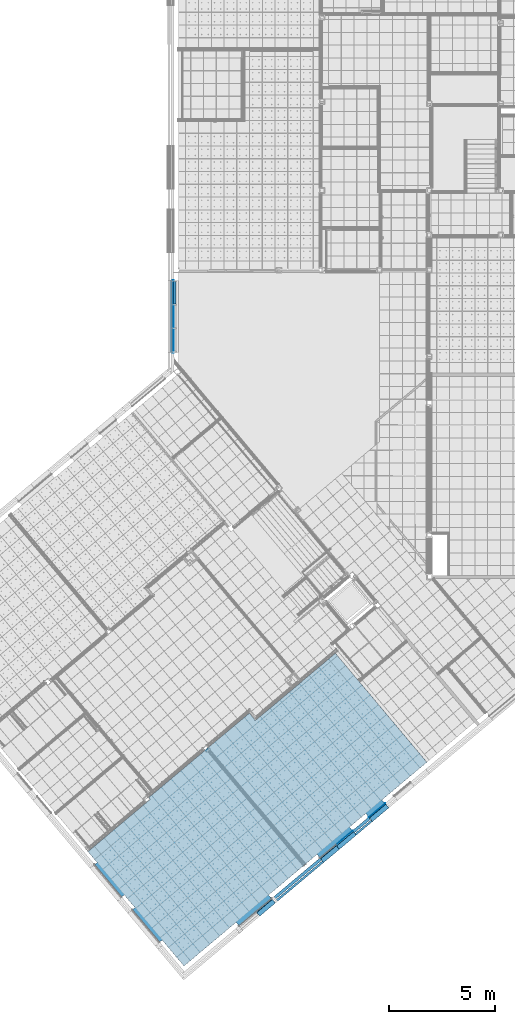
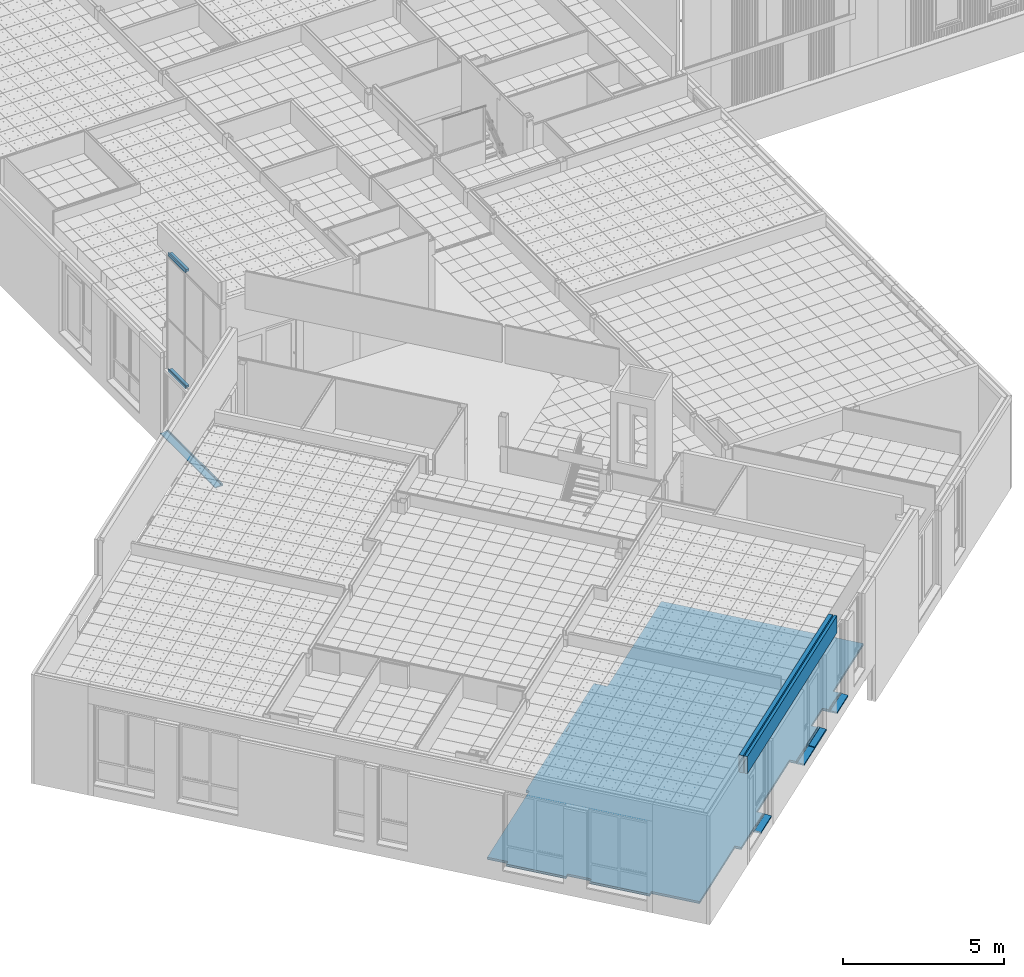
# One storey, part 64 of 338: 20 building element parts, 10 elements without a shape of their own.
"""IFC2X3 building model written with IfcOpenShell, lengths in millimetres."""

from ifc_helpers import new_model, entity, si_unit, converted_unit, derived_unit, money_unit, direction, frame, origin_with_axes, place, context, subcontext, project, spatial, faceted_brep, material, type_object, element, aggregate, save


model = new_model("IFC2X3")

# Units and contexts
model_context = context("Model", 3, precision=0.01, world=origin_with_axes(), true_north=direction((0.0, 1.0)))
plan_context = context("Plan", 3, precision=0.01, world=origin_with_axes(), true_north=direction((0.0, 1.0)))
body_context = subcontext(model_context, "Body", "Model", "MODEL_VIEW")
ifc_project = project(units=[si_unit("LENGTHUNIT", "METRE", prefix="MILLI"), si_unit("AREAUNIT", "SQUARE_METRE"), si_unit("VOLUMEUNIT", "CUBIC_METRE"), converted_unit("PLANEANGLEUNIT", "DEGREE", entity("IfcPlaneAngleMeasure", 0.0174532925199), si_unit("PLANEANGLEUNIT", "RADIAN"), dimensions=[0, 0, 0, 0, 0, 0, 0]), money_unit("EUR"), converted_unit("TIMEUNIT", "Year", entity("IfcTimeMeasure", 31556926.0), si_unit("TIMEUNIT", "SECOND"), dimensions=[0, 0, 1, 0, 0, 0, 0]), si_unit("MASSUNIT", "GRAM", prefix="KILO"), si_unit("THERMODYNAMICTEMPERATUREUNIT", "DEGREE_CELSIUS"), si_unit("LUMINOUSINTENSITYUNIT", "LUMEN"), si_unit("ENERGYUNIT", "JOULE", prefix="MEGA"), derived_unit("THERMALCONDUCTANCEUNIT", [(si_unit("POWERUNIT", "WATT"), 1), (si_unit("LENGTHUNIT", "METRE"), -1), (si_unit("THERMODYNAMICTEMPERATUREUNIT", "KELVIN"), -1)]), derived_unit("SPECIFICHEATCAPACITYUNIT", [(si_unit("ENERGYUNIT", "JOULE"), 1), (si_unit("MASSUNIT", "GRAM", prefix="KILO"), -1), (si_unit("THERMODYNAMICTEMPERATUREUNIT", "KELVIN"), -1)]), derived_unit("MASSDENSITYUNIT", [(si_unit("MASSUNIT", "GRAM", prefix="KILO"), 1), (si_unit("VOLUMEUNIT", "CUBIC_METRE"), -1)])], contexts=[model_context, plan_context])

# Site, building, storey
site_placement = place(None, origin_with_axes())
site = spatial("IfcSite", under=ifc_project, at=site_placement, Name="Fortuinstraat Woensdrecht", CompositionType="ELEMENT")
building_placement = place(site_placement, origin_with_axes())
building = spatial("IfcBuilding", under=site, at=building_placement, Name="IKC Fortuna", CompositionType="ELEMENT")
storey_placement = place(building_placement, origin_with_axes())
storey = spatial("IfcBuildingStorey", under=building, at=storey_placement, Name="00 begane grond", CompositionType="ELEMENT", Elevation=0.0)

# Covering, building element parts
covering_type_1 = type_object("IfcCoveringType", Name="41 dorpel 1450 280 x 88", PredefinedType="NOTDEFINED")
covering_1_placement = place(storey_placement, frame((22845.4119321, -9638.15133467, 1447.5), z_axis=(0.0, 0.0, 1.0), x_axis=(0.76604443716, 0.642787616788, 0.0)))
covering_1 = element("IfcCovering", 1, at=covering_1_placement, inside=storey, type_object=covering_type_1, Name="41_Afwerking_Dorpel", PredefinedType="NOTDEFINED")
ifc_material_1 = material(Name="Isolatie - PUR gespoten")
building_element_part_1_placement = place(covering_1_placement, origin_with_axes())
building_element_part_1 = element("IfcBuildingElementPart", 2, at=building_element_part_1_placement, material=ifc_material_1, Name="Isolatie - PUR gespoten", context=body_context, shape_type="Brep", body=[
    faceted_brep([(1010.00000281, 129.999999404, 2.49999869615), (1010.00000281, 140.000000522, 2.5), (0.0, 140.000000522, 2.5), (0.0, 129.999999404, 2.49999869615), (1010.00000281, 129.999999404, -85.0), (1010.00000281, 140.000000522, -85.0), (0.0, 140.000000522, -85.0), (0.0, 129.999999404, -85.0)], [[[0, 1, 2, 3]], [[0, 4, 5, 1]], [[1, 5, 6, 2]], [[3, 2, 6, 7]], [[4, 0, 3, 7]], [[5, 4, 7, 6]]]),
])
ifc_material_2 = material(Name="Hout AFW")
building_element_part_2_placement = place(covering_1_placement, origin_with_axes())
building_element_part_2 = element("IfcBuildingElementPart", 3, at=building_element_part_2_placement, material=ifc_material_2, Name="Hout AFW", context=body_context, shape_type="Brep", body=[
    faceted_brep([(1010.00000281, 130.0, 2.49999910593), (1010.00000281, 130.0, -85.0), (0.0, 130.0, -85.0), (0.0, 130.0, 2.49999910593), (1010.00000281, 92.0000008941, 2.49999910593), (1010.00000281, 92.0000008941, -85.0), (0.0, 92.0000008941, -85.0), (0.0, 92.0000008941, 2.49999910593)], [[[0, 1, 2, 3]], [[0, 4, 5, 1]], [[1, 5, 6, 2]], [[3, 2, 6, 7]], [[4, 0, 3, 7]], [[5, 4, 7, 6]]]),
])
ifc_material_3 = material(Name="Steen - Kunststeen")
building_element_part_3_placement = place(covering_1_placement, origin_with_axes())
building_element_part_3 = element("IfcBuildingElementPart", 4, at=building_element_part_3_placement, material=ifc_material_3, Name="Steen - Kunststeen", context=body_context, shape_type="Brep", body=[
    faceted_brep([(1010.00000281, 82.0, -19.5865456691), (1010.00000281, 82.0, 2.5), (0.0, 82.0, 2.5), (0.0, 82.0, -19.5865456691), (1010.00000281, -140.0, -39.7722078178), (1010.00000281, -140.0, -85.0), (1010.00000281, 92.0, -85.0), (1010.00000281, 92.0, 2.5), (0.0, 92.0, 2.5), (0.0, 92.0, -85.0), (0.0, -140.0, -85.0), (0.0, -140.0, -39.7722078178)], [[[0, 1, 2, 3]], [[0, 4, 5, 6, 7, 1]], [[1, 7, 8, 2]], [[3, 2, 8, 9, 10, 11]], [[4, 0, 3, 11]], [[5, 4, 11, 10]], [[6, 5, 10, 9]], [[7, 6, 9, 8]]]),
])
aggregate(covering_1, [building_element_part_1, building_element_part_2, building_element_part_3])

# Curtain wall, plates, building element parts
curtain_wall_type = type_object("IfcCurtainWallType", Name="Curtain Wall Type", PredefinedType="NOTDEFINED")
curtain_wall_placement = place(storey_placement, frame((13569.9121752, 15129.2768159, -0.000250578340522), z_axis=(0.0, 0.0, 1.0), x_axis=(1.0, 0.0, 0.0)))
curtain_wall = element("IfcCurtainWall", 5, at=curtain_wall_placement, inside=storey, type_object=curtain_wall_type, Name="21_Vliesgevel_Vliesgevel")
plate_type_1 = type_object("IfcPlateType", Name="Distinct Panel 1095 x 130 x 33", PredefinedType="CURTAIN_PANEL")
plate_1_placement = place(curtain_wall_placement, frame((0.0, 0.0, 6717.50001103), z_axis=(0.0, 0.0, 1.0), x_axis=(0.0, 1.0, 0.0)))
plate_1 = element("IfcPlate", 6, at=plate_1_placement, type_object=plate_type_1, Name="_Vliesgevel - paneel_Paneel-x", ObjectType="CURTAIN_PANEL")
ifc_material_4 = material(Name="Metaal - Staal AFW")
building_element_part_4_placement = place(plate_1_placement, origin_with_axes())
building_element_part_4 = element("IfcBuildingElementPart", 7, at=building_element_part_4_placement, material=ifc_material_4, Name="Metaal - Staal AFW", context=body_context, shape_type="Brep", body=[
    faceted_brep([(-557.999993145, -14.5, -75.5000041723), (-557.999993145, -14.5, 50.5000056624), (532.999992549, -14.5, 50.5000056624), (532.999992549, -14.5, -75.5000041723), (512.999998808, -14.5, -55.5000104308), (512.999998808, -14.5, 30.5000119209), (-537.999999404, -14.5, 30.5000119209), (-537.999999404, -14.5, -55.5000104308), (-557.999993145, 14.5, -75.5000041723), (-557.999993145, 14.5, 50.5000056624), (532.999992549, 14.5, 50.5000056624), (532.999992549, 14.5, -75.5000041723), (512.999998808, -131.5, 30.5000119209), (512.999998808, -131.5, -55.5000104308), (-537.999999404, -131.5, 30.5000119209), (-537.999999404, -131.5, -55.5000104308), (534.999992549, 14.5, 52.5000056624), (534.999992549, 14.5, -77.5000041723), (-559.999993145, 14.5, -77.5000041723), (-559.999993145, 14.5, 52.5000056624), (534.999992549, -16.5, -77.5000041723), (534.999992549, -16.5, 52.5000056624), (-559.999993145, -16.5, -77.5000041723), (-559.999993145, -16.5, 52.5000056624), (-539.999999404, -16.5, -57.5000104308), (-539.999999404, -16.5, 32.5000119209), (514.999998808, -16.5, 32.5000119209), (514.999998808, -16.5, -57.5000104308), (-539.999999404, -133.5, -57.5000104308), (-539.999999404, -133.5, 32.5000119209), (514.999998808, -133.5, 32.5000119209), (514.999998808, -133.5, -57.5000104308)], [[[0, 1, 2, 3], [4, 5, 6, 7]], [[0, 8, 9, 1]], [[1, 9, 10, 2]], [[2, 10, 11, 3]], [[3, 11, 8, 0]], [[12, 5, 4, 13]], [[6, 5, 12, 14]], [[7, 6, 14, 15]], [[13, 4, 7, 15]], [[16, 17, 18, 19], [8, 11, 10, 9]], [[15, 14, 12, 13]], [[20, 17, 16, 21]], [[22, 18, 17, 20]], [[23, 19, 18, 22]], [[21, 16, 19, 23]], [[22, 20, 21, 23], [24, 25, 26, 27]], [[25, 24, 28, 29]], [[26, 25, 29, 30]], [[27, 26, 30, 31]], [[24, 27, 31, 28]], [[31, 30, 29, 28]]]),
    faceted_brep([(-559.999993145, 16.5, 52.5000056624), (-559.999993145, 14.5, 52.5000056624), (534.999992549, 14.5, 52.5000056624), (534.999992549, 16.5, 52.5000056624), (-559.999993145, 16.5, -77.5000041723), (-559.999993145, 14.5, -77.5000041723), (534.999992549, 14.5, -77.5000041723), (534.999992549, 16.5, -77.5000041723)], [[[0, 1, 2, 3]], [[4, 5, 1, 0]], [[2, 1, 5, 6]], [[3, 2, 6, 7]], [[4, 0, 3, 7]], [[7, 6, 5, 4]]]),
])
ifc_material_5 = material(Name="ALG - ISOLATIE")
building_element_part_5_placement = place(plate_1_placement, origin_with_axes())
building_element_part_5 = element("IfcBuildingElementPart", 8, at=building_element_part_5_placement, material=ifc_material_5, Name="ALG - ISOLATIE", context=body_context, shape_type="Brep", body=[
    faceted_brep([(512.999998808, -14.5, 30.5000119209), (-537.999999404, -14.5, 30.5000119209), (-537.999999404, -131.5, 30.5000119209), (512.999998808, -131.5, 30.5000119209), (532.999992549, -14.5, 50.5000056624), (-557.999993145, -14.5, 50.5000056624), (-557.999993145, -14.5, -75.5000041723), (532.999992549, -14.5, -75.5000041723), (-537.999999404, -14.5, -55.5000104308), (512.999998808, -14.5, -55.5000104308), (-537.999999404, -131.5, -55.5000104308), (512.999998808, -131.5, -55.5000104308), (-557.999993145, 14.5, 50.5000056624), (532.999992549, 14.5, 50.5000056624), (-557.999993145, 14.5, -75.5000041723), (532.999992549, 14.5, -75.5000041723)], [[[0, 1, 2, 3]], [[4, 5, 6, 7], [8, 1, 0, 9]], [[1, 8, 10, 2]], [[3, 2, 10, 11]], [[9, 0, 3, 11]], [[12, 5, 4, 13]], [[14, 6, 5, 12]], [[15, 7, 6, 14]], [[13, 4, 7, 15]], [[8, 9, 11, 10]], [[14, 12, 13, 15]]]),
])
aggregate(plate_1, [building_element_part_4, building_element_part_5])
plate_type_2 = type_object("IfcPlateType", Name="Distinct Panel 1095 x 114 x 33", PredefinedType="CURTAIN_PANEL")
plate_2_placement = place(curtain_wall_placement, frame((0.0, 0.0, 2298.5), z_axis=(0.0, 0.0, 1.0), x_axis=(0.0, 1.0, 0.0)))
plate_2 = element("IfcPlate", 9, at=plate_2_placement, type_object=plate_type_2, Name="_Vliesgevel - paneel_Paneel-x", ObjectType="CURTAIN_PANEL")
aggregate(curtain_wall, [plate_1, plate_2])
building_element_part_6_placement = place(plate_2_placement, origin_with_axes())
building_element_part_6 = element("IfcBuildingElementPart", 10, at=building_element_part_6_placement, material=ifc_material_4, Name="Metaal - Staal AFW", context=body_context, shape_type="Brep", body=[
    faceted_brep([(-557.999993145, -14.5, -54.9999931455), (-557.999993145, -14.5, 55.0000014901), (532.999992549, -14.5, 55.0000014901), (532.999992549, -14.5, -54.9999931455), (512.999998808, -14.5, -34.999999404), (512.999998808, -14.5, 35.0000077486), (-537.999999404, -14.5, 35.0000077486), (-537.999999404, -14.5, -34.999999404), (-557.999993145, 14.5, -54.9999931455), (-557.999993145, 14.5, 55.0000014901), (532.999992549, 14.5, 55.0000014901), (532.999992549, 14.5, -54.9999931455), (512.999998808, -131.5, 35.0000077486), (512.999998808, -131.5, -34.999999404), (-537.999999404, -131.5, 35.0000077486), (-537.999999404, -131.5, -34.999999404), (534.999992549, 14.5, 57.0000014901), (534.999992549, 14.5, -56.9999931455), (-559.999993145, 14.5, -56.9999931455), (-559.999993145, 14.5, 57.0000014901), (534.999992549, -16.5, -56.9999931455), (534.999992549, -16.5, 57.0000014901), (-559.999993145, -16.5, -56.9999931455), (-559.999993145, -16.5, 57.0000014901), (-539.999999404, -16.5, -36.999999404), (-539.999999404, -16.5, 37.0000077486), (514.999998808, -16.5, 37.0000077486), (514.999998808, -16.5, -36.999999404), (-539.999999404, -133.5, -36.999999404), (-539.999999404, -133.5, 37.0000077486), (514.999998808, -133.5, 37.0000077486), (514.999998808, -133.5, -36.999999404)], [[[0, 1, 2, 3], [4, 5, 6, 7]], [[0, 8, 9, 1]], [[1, 9, 10, 2]], [[2, 10, 11, 3]], [[3, 11, 8, 0]], [[12, 5, 4, 13]], [[6, 5, 12, 14]], [[7, 6, 14, 15]], [[13, 4, 7, 15]], [[16, 17, 18, 19], [8, 11, 10, 9]], [[15, 14, 12, 13]], [[20, 17, 16, 21]], [[22, 18, 17, 20]], [[23, 19, 18, 22]], [[21, 16, 19, 23]], [[22, 20, 21, 23], [24, 25, 26, 27]], [[25, 24, 28, 29]], [[26, 25, 29, 30]], [[27, 26, 30, 31]], [[24, 27, 31, 28]], [[31, 30, 29, 28]]]),
    faceted_brep([(-559.999993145, 16.5, 57.0000014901), (-559.999993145, 14.5, 57.0000014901), (534.999992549, 14.5, 57.0000014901), (534.999992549, 16.5, 57.0000014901), (-559.999993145, 16.5, -56.9999931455), (-559.999993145, 14.5, -56.9999931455), (534.999992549, 14.5, -56.9999931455), (534.999992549, 16.5, -56.9999931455)], [[[0, 1, 2, 3]], [[4, 5, 1, 0]], [[2, 1, 5, 6]], [[3, 2, 6, 7]], [[4, 0, 3, 7]], [[7, 6, 5, 4]]]),
])
building_element_part_7_placement = place(plate_2_placement, origin_with_axes())
building_element_part_7 = element("IfcBuildingElementPart", 11, at=building_element_part_7_placement, material=ifc_material_5, Name="ALG - ISOLATIE", context=body_context, shape_type="Brep", body=[
    faceted_brep([(512.999998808, -14.5, 35.0000077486), (-537.999999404, -14.5, 35.0000077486), (-537.999999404, -131.5, 35.0000077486), (512.999998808, -131.5, 35.0000077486), (532.999992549, -14.5, 55.0000014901), (-557.999993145, -14.5, 55.0000014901), (-557.999993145, -14.5, -54.9999931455), (532.999992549, -14.5, -54.9999931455), (-537.999999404, -14.5, -34.999999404), (512.999998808, -14.5, -34.999999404), (-537.999999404, -131.5, -34.999999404), (512.999998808, -131.5, -34.999999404), (-557.999993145, 14.5, 55.0000014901), (532.999992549, 14.5, 55.0000014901), (-557.999993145, 14.5, -54.9999931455), (532.999992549, 14.5, -54.9999931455)], [[[0, 1, 2, 3]], [[4, 5, 6, 7], [8, 1, 0, 9]], [[1, 8, 10, 2]], [[3, 2, 10, 11]], [[9, 0, 3, 11]], [[12, 5, 4, 13]], [[14, 6, 5, 12]], [[15, 7, 6, 14]], [[13, 4, 7, 15]], [[8, 9, 11, 10]], [[14, 12, 13, 15]]]),
])
aggregate(plate_2, [building_element_part_6, building_element_part_7])

# Covering, building element parts
covering_type_2 = type_object("IfcCoveringType", Name="43 Vloerafwerking 90", PredefinedType="FLOORING")
covering_2_placement = place(storey_placement, frame((14072.3968232, -16537.4708964, 1450.0), z_axis=(0.0, 0.0, 1.0), x_axis=(1.0, 0.0, 0.0)))
covering_2 = element("IfcCovering", 12, at=covering_2_placement, inside=storey, type_object=covering_type_2, Name="43_Vloerafwerking_Vloerafwerking", PredefinedType="FLOORING")
ifc_material_6 = material(Name="Cement")
building_element_part_8_placement = place(covering_2_placement, origin_with_axes())
building_element_part_8 = element("IfcBuildingElementPart", 13, at=building_element_part_8_placement, material=ifc_material_6, Name="Cement", context=body_context, shape_type="Brep", body=[
    faceted_brep([(1131.73034042, 10160.1955619, 0.0), (1199.52527364, 10217.0822653, 0.0), (1206.59593735, 10208.6557765, 0.0), (1038.06615986, 10067.2425023, 0.0), (1030.99549615, 10075.6689912, 0.0), (1098.79042937, 10132.5556947, 0.0), (1104.13471957, 10140.1881321, 0.0), (1104.94679195, 10149.4701618, 0.0), (1101.00905237, 10157.9146716, 0.0), (1056.78469329, 10210.6192104, 0.0), (-1662.90561836, 7928.528073, 0.0), (-1592.1989813, 7844.26318426, 0.0), (-4520.40386512, 5387.20754623, 0.0), (-4084.27249846, 4867.44642317, 0.0), (-4199.17916493, 4771.02828172, 0.0), (-2922.60297209, 3249.66401768, 0.0), (-2807.69630562, 3346.08215914, 0.0), (-2303.75080637, 2745.50329994, 0.0), (-2418.65747284, 2649.08515848, 0.0), (-1142.08128, 1127.72089445, 0.0), (-1027.17461354, 1224.1390359, 0.0), (0.0, 0.0, 0.0), (2453.09044164, 2058.38728483, 0.0), (2590.64699011, 1894.453774, 0.0), (4111.79511935, 3170.84860825, 0.0), (3974.23857088, 3334.78211908, 0.0), (3974.45470565, 3334.96347769, 0.0), (6260.35770168, 5253.06383852, 0.0), (6397.91425016, 5089.13032769, 0.0), (7919.03600166, 6365.50302839, 0.0), (7781.47945318, 6529.43653922, 0.0), (7781.7219657, 6529.64003138, 0.0), (8550.83058661, 7174.99879148, 0.0), (8688.38713508, 7011.06528066, 0.0), (9443.31137424, 7644.52193134, 0.0), (9305.75482576, 7808.45544217, 0.0), (9306.15040751, 7808.78737466, 0.0), (11421.7227361, 9583.96333528, 0.0), (7119.86665828, 14710.7157708, 0.0), (3361.65289299, 11557.1999865, 0.0), (3072.39846863, 11901.9199859, 0.0), (1062.14700439, 10215.1187237, 0.0), (1106.37136347, 10162.4141849, 0.0), (1114.00380087, 10157.0698947, 0.0), (1123.28583065, 10156.2578223, 0.0), (1131.73034042, 10160.1955619, -50.0), (1199.52527364, 10217.0822653, -50.0), (1206.59593735, 10208.6557765, -50.0), (1038.06615986, 10067.2425023, -50.0), (1030.99549615, 10075.6689912, -50.0), (1098.79042937, 10132.5556947, -50.0), (1104.13471957, 10140.1881321, -50.0), (1104.94679195, 10149.4701618, -50.0), (1101.00905237, 10157.9146716, -50.0), (1056.78469329, 10210.6192104, -50.0), (1062.14700439, 10215.1187237, -50.0), (3072.39846863, 11901.9199859, -70.0), (-1662.90561836, 7928.528073, -70.0), (-1592.1989813, 7844.26318426, -70.0), (-4520.40386512, 5387.20754623, -70.0), (-4084.27249846, 4867.44642317, -70.0), (-4199.17916493, 4771.02828172, -70.0), (-2922.60297209, 3249.66401768, -70.0), (-2807.69630562, 3346.08215914, -70.0), (-2303.75080637, 2745.50329994, -70.0), (-2418.65747284, 2649.08515848, -70.0), (-1142.08128, 1127.72089445, -70.0), (-1027.17461354, 1224.1390359, -70.0), (0.0, 0.0, -70.0), (2453.09044164, 2058.38728483, -70.0), (2590.64699011, 1894.453774, -70.0), (4111.79511935, 3170.84860825, -70.0), (3974.23857088, 3334.78211908, -70.0), (3974.45470565, 3334.96347769, -70.0), (6260.35770168, 5253.06383852, -70.0), (6397.91425016, 5089.13032769, -70.0), (7919.03600166, 6365.50302839, -70.0), (7781.47945318, 6529.43653922, -70.0), (7781.7219657, 6529.64003138, -70.0), (8550.83058661, 7174.99879148, -70.0), (8688.38713508, 7011.06528066, -70.0), (9443.31137424, 7644.52193134, -70.0), (9305.75482576, 7808.45544217, -70.0), (9306.15040751, 7808.78737466, -70.0), (11421.7227361, 9583.96333528, -70.0), (7119.86665828, 14710.7157708, -70.0), (3361.65289299, 11557.1999865, -70.0), (1106.37136347, 10162.4141849, -50.0), (1114.00380087, 10157.0698947, -50.0), (1123.28583065, 10156.2578223, -50.0)], [[[0, 1, 2, 3, 4, 5, 6, 7, 8, 9, 10, 11, 12, 13, 14, 15, 16, 17, 18, 19, 20, 21, 22, 23, 24, 25, 26, 27, 28, 29, 30, 31, 32, 33, 34, 35, 36, 37, 38, 39, 40, 41, 42, 43, 44]], [[1, 0, 45, 46]], [[2, 1, 46, 47]], [[3, 2, 47, 48]], [[4, 3, 48, 49]], [[5, 4, 49, 50]], [[6, 5, 50, 51]], [[7, 6, 51, 52]], [[8, 7, 52, 53]], [[9, 8, 53, 54]], [[55, 41, 40, 56, 57, 10, 9, 54]], [[10, 57, 58, 11]], [[11, 58, 59, 12]], [[12, 59, 60, 13]], [[13, 60, 61, 14]], [[14, 61, 62, 15]], [[15, 62, 63, 16]], [[16, 63, 64, 17]], [[17, 64, 65, 18]], [[18, 65, 66, 19]], [[19, 66, 67, 20]], [[20, 67, 68, 21]], [[21, 68, 69, 22]], [[22, 69, 70, 23]], [[70, 71, 24, 23]], [[72, 25, 24, 71]], [[72, 73, 26, 25]], [[27, 26, 73, 74]], [[27, 74, 75, 28]], [[75, 76, 29, 28]], [[77, 30, 29, 76]], [[77, 78, 31, 30]], [[32, 31, 78, 79]], [[32, 79, 80, 33]], [[80, 81, 34, 33]], [[82, 35, 34, 81]], [[82, 83, 36, 35]], [[37, 36, 83, 84]], [[37, 84, 85, 38]], [[38, 85, 86, 39]], [[39, 86, 56, 40]], [[42, 41, 55, 87]], [[43, 42, 87, 88]], [[44, 43, 88, 89]], [[0, 44, 89, 45]], [[55, 54, 53, 52, 51, 50, 49, 48, 47, 46, 45, 89, 88, 87]], [[83, 82, 81, 80, 79, 78, 77, 76, 75, 74, 73, 72, 71, 70, 69, 68, 67, 66, 65, 64, 63, 62, 61, 60, 59, 58, 57, 56, 86, 85, 84]]]),
])
ifc_material_7 = material(Name="Isolatie - XPS zwevende dekvloer")
building_element_part_9_placement = place(covering_2_placement, origin_with_axes())
building_element_part_9 = element("IfcBuildingElementPart", 14, at=building_element_part_9_placement, material=ifc_material_7, Name="Isolatie - XPS zwevende dekvloer", context=body_context, shape_type="Brep", body=[
    faceted_brep([(8688.38713508, 7011.06528066, -70.0), (8688.38713508, 7011.06528066, -90.0), (9443.31137424, 7644.52193134, -90.0), (9443.31137424, 7644.52193134, -70.0), (8550.83058661, 7174.99879148, -70.0), (8550.83058661, 7174.99879148, -90.0), (11421.7227361, 9583.96333528, -90.0), (9306.15040751, 7808.78737466, -90.0), (9305.75482576, 7808.45544217, -90.0), (7781.7219657, 6529.64003138, -90.0), (7781.47945318, 6529.43653922, -90.0), (7919.03600166, 6365.50302839, -90.0), (6397.91425016, 5089.13032769, -90.0), (6260.35770168, 5253.06383852, -90.0), (3974.45470565, 3334.96347769, -90.0), (3974.23857088, 3334.78211908, -90.0), (4111.79511935, 3170.84860825, -90.0), (2590.64699011, 1894.453774, -90.0), (2453.09044164, 2058.38728483, -90.0), (0.0, 0.0, -90.0), (-1027.17461354, 1224.1390359, -90.0), (-1142.08128, 1127.72089445, -90.0), (-2418.65747284, 2649.08515848, -90.0), (-2303.75080637, 2745.50329994, -90.0), (-2807.69630562, 3346.08215914, -90.0), (-2922.60297209, 3249.66401768, -90.0), (-4199.17916493, 4771.02828172, -90.0), (-4084.27249846, 4867.44642317, -90.0), (-4520.40386512, 5387.20754623, -90.0), (-1592.1989813, 7844.26318426, -90.0), (-1662.90561836, 7928.528073, -90.0), (3072.39846863, 11901.9199859, -90.0), (3361.65289299, 11557.1999865, -90.0), (7119.86665828, 14710.7157708, -90.0), (9305.75482576, 7808.45544217, -70.0), (9306.15040751, 7808.78737466, -70.0), (11421.7227361, 9583.96333528, -70.0), (7119.86665828, 14710.7157708, -70.0), (3361.65289299, 11557.1999865, -70.0), (3072.39846863, 11901.9199859, -70.0), (-1662.90561836, 7928.528073, -70.0), (-1592.1989813, 7844.26318426, -70.0), (-4520.40386512, 5387.20754623, -70.0), (-4084.27249846, 4867.44642317, -70.0), (-4199.17916493, 4771.02828172, -70.0), (-2922.60297209, 3249.66401768, -70.0), (-2807.69630562, 3346.08215914, -70.0), (-2303.75080637, 2745.50329994, -70.0), (-2418.65747284, 2649.08515848, -70.0), (-1142.08128, 1127.72089445, -70.0), (-1027.17461354, 1224.1390359, -70.0), (0.0, 0.0, -70.0), (2453.09044164, 2058.38728483, -70.0), (2590.64699011, 1894.453774, -70.0), (4111.79511935, 3170.84860825, -70.0), (3974.23857088, 3334.78211908, -70.0), (3974.45470565, 3334.96347769, -70.0), (6260.35770168, 5253.06383852, -70.0), (6397.91425016, 5089.13032769, -70.0), (7919.03600166, 6365.50302839, -70.0), (7781.47945318, 6529.43653922, -70.0), (7781.7219657, 6529.64003138, -70.0)], [[[0, 1, 2, 3]], [[1, 0, 4, 5]], [[6, 7, 8, 2, 1, 5, 9, 10, 11, 12, 13, 14, 15, 16, 17, 18, 19, 20, 21, 22, 23, 24, 25, 26, 27, 28, 29, 30, 31, 32, 33]], [[2, 8, 34, 3]], [[0, 3, 34, 35, 36, 37, 38, 39, 40, 41, 42, 43, 44, 45, 46, 47, 48, 49, 50, 51, 52, 53, 54, 55, 56, 57, 58, 59, 60, 61, 4]], [[5, 4, 61, 9]], [[6, 36, 35, 7]], [[34, 8, 7, 35]], [[60, 10, 9, 61]], [[11, 10, 60, 59]], [[58, 12, 11, 59]], [[12, 58, 57, 13]], [[13, 57, 56, 14]], [[55, 15, 14, 56]], [[16, 15, 55, 54]], [[53, 17, 16, 54]], [[17, 53, 52, 18]], [[18, 52, 51, 19]], [[19, 51, 50, 20]], [[20, 50, 49, 21]], [[21, 49, 48, 22]], [[22, 48, 47, 23]], [[23, 47, 46, 24]], [[24, 46, 45, 25]], [[25, 45, 44, 26]], [[26, 44, 43, 27]], [[27, 43, 42, 28]], [[28, 42, 41, 29]], [[29, 41, 40, 30]], [[30, 40, 39, 31]], [[31, 39, 38, 32]], [[32, 38, 37, 33]], [[33, 37, 36, 6]]]),
])
aggregate(covering_2, [building_element_part_8, building_element_part_9])

covering_type_3 = type_object("IfcCoveringType", Name="41 dorpel d bi 1450 280 x 108", PredefinedType="NOTDEFINED")
covering_3_placement = place(storey_placement, frame((21291.8737738, -10941.7246163, 1447.5), z_axis=(0.0, 0.0, 1.0), x_axis=(0.76604443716, 0.642787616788, 0.0)))
covering_3 = element("IfcCovering", 15, at=covering_3_placement, inside=storey, type_object=covering_type_3, Name="41_Afwerking_Dorpel", PredefinedType="NOTDEFINED")
building_element_part_10_placement = place(covering_3_placement, origin_with_axes())
building_element_part_10 = element("IfcBuildingElementPart", 16, at=building_element_part_10_placement, material=ifc_material_1, Name="Isolatie - PUR gespoten", context=body_context, shape_type="Brep", body=[
    faceted_brep([(1043.00000001, 140.0, -85.0), (1043.00000001, 129.999999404, -85.0), (0.0, 129.999999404, -85.0), (0.0, 140.0, -85.0), (1043.00000001, 140.0, 2.5), (1043.00000001, 129.999999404, 2.5), (0.0, 129.999999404, 2.5), (0.0, 140.0, 2.5)], [[[0, 1, 2, 3]], [[0, 4, 5, 1]], [[1, 5, 6, 2]], [[3, 2, 6, 7]], [[4, 0, 3, 7]], [[5, 4, 7, 6]]]),
])
building_element_part_11_placement = place(covering_3_placement, origin_with_axes())
building_element_part_11 = element("IfcBuildingElementPart", 17, at=building_element_part_11_placement, material=ifc_material_3, Name="Steen - Kunststeen", context=body_context, shape_type="Brep", body=[
    faceted_brep([(1043.00000001, 68.0, 2.5), (1043.00000001, 68.0, 22.5), (0.0, 68.0, 22.5), (0.0, 68.0, 2.5), (1043.00000001, -140.0, -16.4126924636), (1043.00000001, -140.0, -85.0), (1043.00000001, 130.0, -85.0), (1043.00000001, 129.999999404, 2.5), (1043.00000001, 130.0, 22.5), (0.0, 130.0, 22.5), (0.0, 129.999999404, 2.5), (0.0, 130.0, -85.0), (0.0, -140.0, -85.0), (0.0, -140.0, -16.4126924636)], [[[0, 1, 2, 3]], [[0, 4, 5, 6, 7, 8, 1]], [[1, 8, 9, 2]], [[3, 2, 9, 10, 11, 12, 13]], [[4, 0, 3, 13]], [[5, 4, 13, 12]], [[6, 5, 12, 11]], [[7, 6, 11, 10]], [[8, 7, 10, 9]]]),
])
aggregate(covering_3, [building_element_part_10, building_element_part_11])

covering_4_placement = place(storey_placement, frame((17542.8258912, -14087.5493114, 1447.5), z_axis=(0.0, 0.0, 1.0), x_axis=(0.76604443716, 0.642787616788, 0.0)))
covering_4 = element("IfcCovering", 18, at=covering_4_placement, inside=storey, type_object=covering_type_1, Name="41_Afwerking_Dorpel", PredefinedType="NOTDEFINED")
building_element_part_12_placement = place(covering_4_placement, origin_with_axes())
building_element_part_12 = element("IfcBuildingElementPart", 19, at=building_element_part_12_placement, material=ifc_material_2, Name="Hout AFW", context=body_context, shape_type="Brep", body=[
    faceted_brep([(967.000000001, 130.0, 2.49999910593), (967.000000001, 130.0, -85.0), (0.0, 130.0, -85.0), (0.0, 130.0, 2.49999910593), (967.000000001, 92.0000008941, 2.49999910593), (967.000000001, 92.0000008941, -85.0), (0.0, 92.0000008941, -85.0), (0.0, 92.0000008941, 2.49999910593)], [[[0, 1, 2, 3]], [[0, 4, 5, 1]], [[1, 5, 6, 2]], [[3, 2, 6, 7]], [[4, 0, 3, 7]], [[5, 4, 7, 6]]]),
])
building_element_part_13_placement = place(covering_4_placement, origin_with_axes())
building_element_part_13 = element("IfcBuildingElementPart", 20, at=building_element_part_13_placement, material=ifc_material_3, Name="Steen - Kunststeen", context=body_context, shape_type="Brep", body=[
    faceted_brep([(967.000000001, 82.0, -19.5865456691), (967.000000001, 82.0, 2.5), (0.0, 82.0, 2.5), (0.0, 82.0, -19.5865456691), (967.000000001, -140.0, -39.7722078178), (967.000000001, -140.0, -85.0), (967.000000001, 92.0, -85.0), (967.000000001, 92.0, 2.5), (0.0, 92.0, 2.5), (0.0, 92.0, -85.0), (0.0, -140.0, -85.0), (0.0, -140.0, -39.7722078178)], [[[0, 1, 2, 3]], [[0, 4, 5, 6, 7, 1]], [[1, 7, 8, 2]], [[3, 2, 8, 9, 10, 11]], [[4, 0, 3, 11]], [[5, 4, 11, 10]], [[6, 5, 10, 9]], [[7, 6, 9, 8]]]),
])
aggregate(covering_4, [building_element_part_12, building_element_part_13])

# Wall, building element parts
wall_type = type_object("IfcWallType", Name="21 MW hoofd 280", PredefinedType="NOTDEFINED")
wall_placement = place(storey_placement, frame((16510.2179469, -14771.2532506, 4447.5), z_axis=(0.0, 0.0, 1.0), x_axis=(0.76604444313, 0.642787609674, 0.0)))
wall = element("IfcWall", 21, at=wall_placement, inside=storey, type_object=wall_type, Name="21_Wand_Baksteen")
building_element_part_14_placement = place(wall_placement, origin_with_axes())
building_element_part_14 = element("IfcBuildingElementPart", 22, at=building_element_part_14_placement, material=ifc_material_5, Name="ALG - ISOLATIE", context=body_context, shape_type="Brep", body=[
    faceted_brep([(0.0, 0.0, 0.0), (8147.5344337, 0.0, 0.0), (8147.5344337, -140.0, 0.0), (0.0, -140.0, 0.0), (0.0, 0.0, 652.5), (8147.5344337, 0.0, 652.5), (8147.5344337, -140.0, 652.5), (0.0, -140.0, 652.5)], [[[0, 1, 2, 3]], [[4, 5, 1, 0]], [[2, 1, 5, 6]], [[3, 2, 6, 7]], [[4, 0, 3, 7]], [[7, 6, 5, 4]]]),
])
ifc_material_8 = material(Name="Steen - Baksteen Hoofd")
building_element_part_15_placement = place(wall_placement, origin_with_axes())
building_element_part_15 = element("IfcBuildingElementPart", 23, at=building_element_part_15_placement, material=ifc_material_8, Name="Steen - Baksteen Hoofd", context=body_context, shape_type="Brep", body=[
    faceted_brep([(0.0, -180.0, 0.0), (8147.5344337, -180.0, 0.0), (8147.5344337, -280.0, 0.0), (0.0, -280.0, 0.0), (0.0, -180.0, 652.5), (8147.5344337, -180.0, 652.5), (8147.5344337, -280.0, 652.5), (0.0, -280.0, 652.5)], [[[0, 1, 2, 3]], [[4, 5, 1, 0]], [[2, 1, 5, 6]], [[3, 2, 6, 7]], [[4, 0, 3, 7]], [[7, 6, 5, 4]]]),
])
aggregate(wall, [building_element_part_14, building_element_part_15])

# Covering, building element parts
covering_5_placement = place(storey_placement, frame((20551.1087968, -11563.3002343, 1447.5), z_axis=(0.0, 0.0, 1.0), x_axis=(0.76604443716, 0.642787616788, 0.0)))
covering_5 = element("IfcCovering", 24, at=covering_5_placement, inside=storey, type_object=covering_type_1, Name="41_Afwerking_Dorpel", PredefinedType="NOTDEFINED")
building_element_part_16_placement = place(covering_5_placement, origin_with_axes())
building_element_part_16 = element("IfcBuildingElementPart", 25, at=building_element_part_16_placement, material=ifc_material_2, Name="Hout AFW", context=body_context, shape_type="Brep", body=[
    faceted_brep([(966.999999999, 130.0, 2.49999910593), (966.999999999, 130.0, -85.0), (0.0, 130.0, -85.0), (0.0, 130.0, 2.49999910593), (966.999999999, 92.0000008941, 2.49999910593), (966.999999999, 92.0000008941, -85.0), (0.0, 92.0000008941, -85.0), (0.0, 92.0000008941, 2.49999910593)], [[[0, 1, 2, 3]], [[0, 4, 5, 1]], [[1, 5, 6, 2]], [[3, 2, 6, 7]], [[4, 0, 3, 7]], [[5, 4, 7, 6]]]),
])
building_element_part_17_placement = place(covering_5_placement, origin_with_axes())
building_element_part_17 = element("IfcBuildingElementPart", 26, at=building_element_part_17_placement, material=ifc_material_3, Name="Steen - Kunststeen", context=body_context, shape_type="Brep", body=[
    faceted_brep([(966.999999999, 82.0, -19.5865456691), (966.999999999, 82.0, 2.5), (0.0, 82.0, 2.5), (0.0, 82.0, -19.5865456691), (966.999999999, -140.0, -39.7722078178), (966.999999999, -140.0, -85.0), (966.999999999, 92.0, -85.0), (966.999999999, 92.0, 2.5), (0.0, 92.0, 2.5), (0.0, 92.0, -85.0), (0.0, -140.0, -85.0), (0.0, -140.0, -39.7722078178)], [[[0, 1, 2, 3]], [[0, 4, 5, 6, 7, 1]], [[1, 7, 8, 2]], [[3, 2, 8, 9, 10, 11]], [[4, 0, 3, 11]], [[5, 4, 11, 10]], [[6, 5, 10, 9]], [[7, 6, 9, 8]]]),
])
aggregate(covering_5, [building_element_part_16, building_element_part_17])

covering_type_4 = type_object("IfcCoveringType", Name="41 dorpel aan peil 280 x 75", PredefinedType="NOTDEFINED")
covering_6_placement = place(storey_placement, frame((13455.4352551, 12302.4141437, -2.5), z_axis=(0.0, 0.0, 1.0), x_axis=(0.0, 1.0, 0.0)))
covering_6 = element("IfcCovering", 27, at=covering_6_placement, inside=storey, type_object=covering_type_4, Name="41_Afwerking_Waterslag", PredefinedType="NOTDEFINED")
building_element_part_18_placement = place(covering_6_placement, origin_with_axes())
building_element_part_18 = element("IfcBuildingElementPart", 28, at=building_element_part_18_placement, material=ifc_material_3, Name="Steen - Kunststeen", context=body_context, shape_type="Brep", body=[
    faceted_brep([(3399.8626722, 140.0, -39.7722078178), (3399.8626722, 140.0, -72.5), (0.0, 140.0, -72.5), (0.0, 140.0, -39.7722078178), (3399.8626722, -82.0, -19.5865456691), (3399.8626722, -82.0, 2.5), (3399.8626722, -92.0, 2.5), (3399.8626722, -92.0, -72.5), (0.0, -92.0, -72.5), (0.0, -92.0, 2.5), (0.0, -82.0, 2.5), (0.0, -82.0, -19.5865456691)], [[[0, 1, 2, 3]], [[0, 4, 5, 6, 7, 1]], [[1, 7, 8, 2]], [[3, 2, 8, 9, 10, 11]], [[4, 0, 3, 11]], [[5, 4, 11, 10]], [[6, 5, 10, 9]], [[7, 6, 9, 8]]]),
])
building_element_part_19_placement = place(covering_6_placement, origin_with_axes())
building_element_part_19 = element("IfcBuildingElementPart", 29, at=building_element_part_19_placement, material=ifc_material_2, Name="Hout AFW", context=body_context, shape_type="Brep", body=[
    faceted_brep([(3399.8626722, -92.0000008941, 2.49999865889), (3399.8626722, -92.0000008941, -72.5), (0.0, -92.0000008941, -72.5), (0.0, -92.0000008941, 2.49999865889), (3399.8626722, -130.0, 2.49999865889), (3399.8626722, -130.0, -72.5), (0.0, -130.0, -72.5), (0.0, -130.0, 2.49999865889)], [[[0, 1, 2, 3]], [[0, 4, 5, 1]], [[1, 5, 6, 2]], [[3, 2, 6, 7]], [[4, 0, 3, 7]], [[5, 4, 7, 6]]]),
])
building_element_part_20_placement = place(covering_6_placement, origin_with_axes())
building_element_part_20 = element("IfcBuildingElementPart", 30, at=building_element_part_20_placement, material=ifc_material_1, Name="Isolatie - PUR gespoten", context=body_context, shape_type="Brep", body=[
    faceted_brep([(3399.8626722, -129.999999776, -72.5), (3399.8626722, -139.999999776, -72.5), (0.0, -139.999999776, -72.5), (0.0, -129.999999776, -72.5), (3399.8626722, -129.999999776, 2.49999888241), (3399.8626722, -139.999999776, 2.5), (0.0, -139.999999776, 2.5), (0.0, -129.999999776, 2.49999888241)], [[[0, 1, 2, 3]], [[0, 4, 5, 1]], [[1, 5, 6, 2]], [[3, 2, 6, 7]], [[4, 0, 3, 7]], [[5, 4, 7, 6]]]),
])
aggregate(covering_6, [building_element_part_18, building_element_part_19, building_element_part_20])

save(model, "model.ifc")
